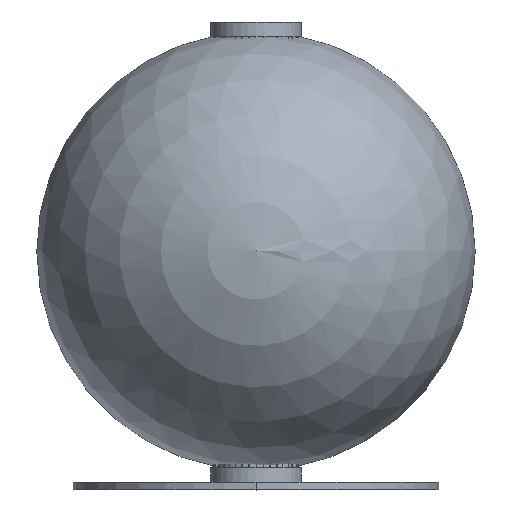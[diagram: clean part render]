
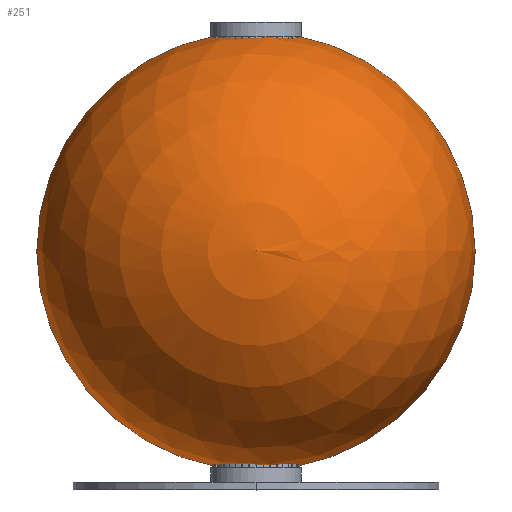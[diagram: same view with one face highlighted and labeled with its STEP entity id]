
A CAD part, top view. The second image highlights one B-rep face of the part: STEP entity #251.
In plain terms, the highlighted spherical face has radius 150 mm.
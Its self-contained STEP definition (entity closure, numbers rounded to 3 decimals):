
#29 = FACE_OUTER_BOUND ( 'NONE', #2735, .T. ) ;
#251 = ADVANCED_FACE ( 'NONE', ( #29 ), #798, .T. ) ;
#374 = CIRCLE ( 'NONE', #2617, 150. ) ;
#414 = ORIENTED_EDGE ( 'NONE', *, *, #1316, .T. ) ;
#457 = CARTESIAN_POINT ( 'NONE',  ( 0., -150., 0. ) ) ;
#618 = AXIS2_PLACEMENT_3D ( 'NONE', #1450, #1014, #2655 ) ;
#676 = ORIENTED_EDGE ( 'NONE', *, *, #1920, .F. ) ;
#798 = SPHERICAL_SURFACE ( 'NONE', #618, 150. ) ;
#907 = CARTESIAN_POINT ( 'NONE',  ( 0., 0., 0. ) ) ;
#1014 = DIRECTION ( 'NONE',  ( 0., 0., 1. ) ) ;
#1042 = CARTESIAN_POINT ( 'NONE',  ( 0., 150., 0. ) ) ;
#1316 = EDGE_CURVE ( 'NONE', #2408, #2070, #374, .T. ) ;
#1401 = DIRECTION ( 'NONE',  ( 0., 0., 1. ) ) ;
#1450 = CARTESIAN_POINT ( 'NONE',  ( 0., 0., 0. ) ) ;
#1763 = CARTESIAN_POINT ( 'NONE',  ( 0., 0., 0. ) ) ;
#1915 = DIRECTION ( 'NONE',  ( 1., 0., 0. ) ) ;
#1920 = EDGE_CURVE ( 'NONE', #2408, #2070, #2325, .T. ) ;
#2070 = VERTEX_POINT ( 'NONE', #457 ) ;
#2325 = CIRCLE ( 'NONE', #2621, 150. ) ;
#2408 = VERTEX_POINT ( 'NONE', #1042 ) ;
#2498 = DIRECTION ( 'NONE',  ( -1., 0., 0. ) ) ;
#2617 = AXIS2_PLACEMENT_3D ( 'NONE', #907, #1401, #1915 ) ;
#2621 = AXIS2_PLACEMENT_3D ( 'NONE', #1763, #2746, #2498 ) ;
#2655 = DIRECTION ( 'NONE',  ( 1., 0., 0. ) ) ;
#2735 = EDGE_LOOP ( 'NONE', ( #676, #414 ) ) ;
#2746 = DIRECTION ( 'NONE',  ( 0., 0., -1. ) ) ;
